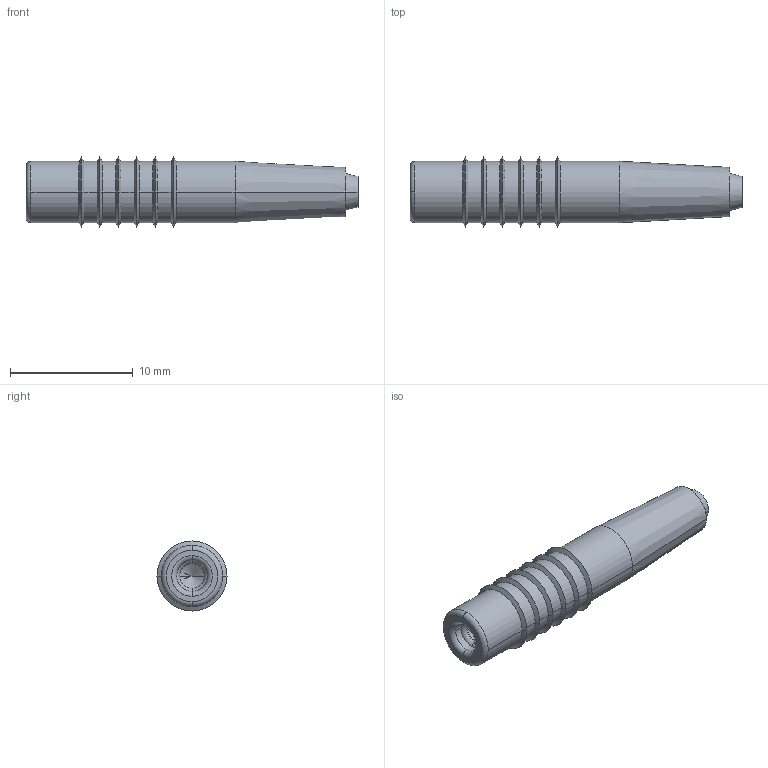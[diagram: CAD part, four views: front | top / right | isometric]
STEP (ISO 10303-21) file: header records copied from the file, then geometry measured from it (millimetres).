
FILE_DESCRIPTION((''),'2;1');
FILE_NAME('N:\Transfer\Berger Martin\Leybold\C15\210311.stp','2005-02-07T09:58:54',('VCRC_L'),(''),'Autodesk Inventor 9','Autodesk Inventor 9','');
FILE_SCHEMA(('AUTOMOTIVE_DESIGN { 1 0 10303 214 1 1 1 1 }'));
Length unit declared in the file: millimetre
Products named in the file (1): 210311
Bounding box: 27 x 5.7 x 5.7 mm (x, y, z)
Volume: 364.8 mm3; surface area: 932.1 mm2
Topology: 1 solids, 3 shells, 95 faces, 207 edges, 120 vertices
Faces by surface type: cylinder 30, cone 30, plane 14, bspline 13, torus 8
Entity records: 2787 total; most frequent: CARTESIAN_POINT 658, DIRECTION 493, ORIENTED_EDGE 406, AXIS2_PLACEMENT_3D 207, EDGE_CURVE 203, CIRCLE 124, VERTEX_POINT 120, EDGE_LOOP 105
